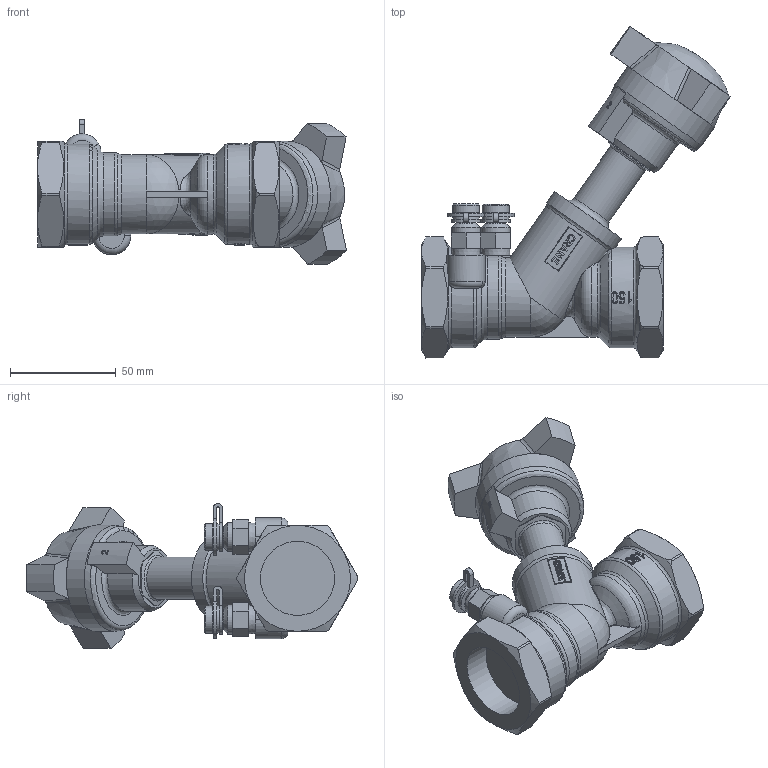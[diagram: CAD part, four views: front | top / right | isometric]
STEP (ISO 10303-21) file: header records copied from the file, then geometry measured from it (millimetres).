
FILE_DESCRIPTION((''),'2;1');
FILE_NAME('P:\Fastrack\53972_CRANE 3D\Workspace\CRANE\D931_1 1-4in\D931_1 1-4in.stp','2011-03-04T15:35:45',('btaylor'),(''),'Autodesk Inventor 2008','Autodesk Inventor 2008','');
FILE_SCHEMA(('AUTOMOTIVE_DESIGN { 1 0 10303 214 1 1 1 1 }'));
Length unit declared in the file: millimetre
Products named in the file (1): D931_1 1-4in
Bounding box: 145.84 x 156.7 x 68.27 mm (x, y, z)
Volume: 286783.2 mm3; surface area: 45517 mm2
Topology: 1 solids, 1 shells, 847 faces, 2251 edges, 1467 vertices
Faces by surface type: plane 360, bspline 343, cylinder 96, cone 28, torus 18, sphere 2
Full cylindrical faces by diameter (mm): 7.4 x2, 11 x2, 12.7 x2, 13.7 x2, 20 x1, 38.8 x1, 47.4 x1, 50 x1
Entity records: 70309 total; most frequent: CARTESIAN_POINT 50962, ORIENTED_EDGE 4406, DIRECTION 2744, EDGE_CURVE 2203, VERTEX_POINT 1452, VECTOR 1040, LINE 1040, EDGE_LOOP 945
